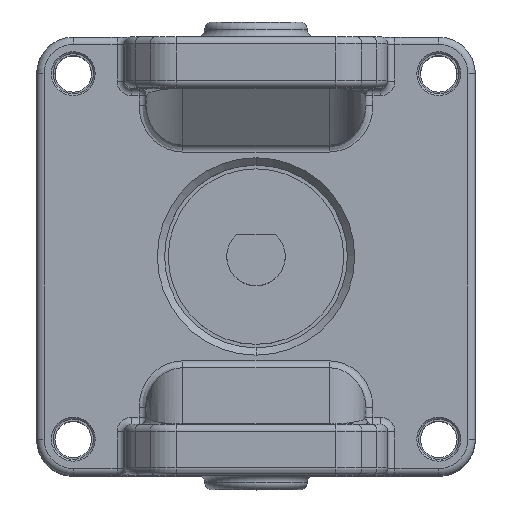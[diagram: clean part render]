
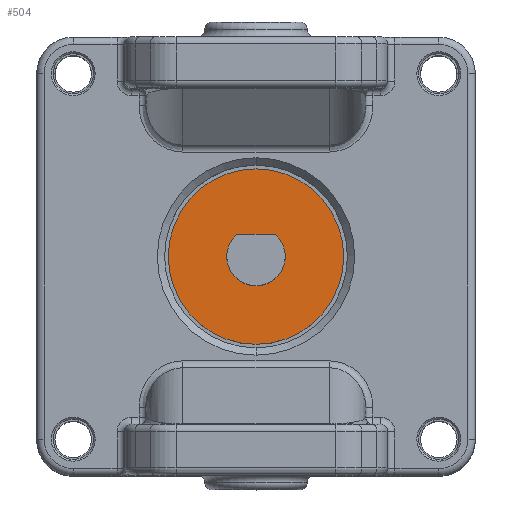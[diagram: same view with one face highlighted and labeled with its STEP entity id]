
A CAD part, top view. The second image highlights one B-rep face of the part: STEP entity #504.
In plain terms, the highlighted planar face has unit normal (0, 0, 1).
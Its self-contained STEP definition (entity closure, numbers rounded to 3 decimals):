
#31=CARTESIAN_POINT('',(0.,0.,0.));
#32=DIRECTION('',(0.,0.,-1.));
#33=DIRECTION('',(0.661,0.75,0.));
#34=AXIS2_PLACEMENT_3D('',#31,#32,#33);
#49=CARTESIAN_POINT('',(0.,0.,0.));
#50=DIRECTION('',(0.,0.,1.));
#51=DIRECTION('',(1.,0.,0.));
#52=AXIS2_PLACEMENT_3D('',#49,#50,#51);
#54=CARTESIAN_POINT('',(0.,0.,0.));
#55=DIRECTION('',(0.,0.,1.));
#56=DIRECTION('',(-1.,0.,0.));
#57=AXIS2_PLACEMENT_3D('',#54,#55,#56);
#59=DIRECTION('',(1.,0.,0.));
#60=VECTOR('',#59,5.292);
#61=CARTESIAN_POINT('',(-2.646,3.,0.));
#62=LINE('',#61,#60);
#353=CARTESIAN_POINT('',(12.,0.,0.));
#354=CARTESIAN_POINT('',(-12.,0.,0.));
#355=VERTEX_POINT('',#353);
#356=VERTEX_POINT('',#354);
#445=CARTESIAN_POINT('',(2.646,3.,0.));
#446=VERTEX_POINT('',#445);
#447=CARTESIAN_POINT('',(-2.646,3.,0.));
#448=VERTEX_POINT('',#447);
#489=CARTESIAN_POINT('',(0.,0.,0.));
#490=DIRECTION('',(0.,0.,1.));
#491=DIRECTION('',(1.,0.,0.));
#492=AXIS2_PLACEMENT_3D('',#489,#490,#491);
#493=PLANE('',#492);
#495=ORIENTED_EDGE('',*,*,#494,.F.);
#497=ORIENTED_EDGE('',*,*,#496,.F.);
#498=EDGE_LOOP('',(#495,#497));
#499=FACE_OUTER_BOUND('',#498,.F.);
#500=ORIENTED_EDGE('',*,*,#481,.F.);
#501=ORIENTED_EDGE('',*,*,#469,.F.);
#502=EDGE_LOOP('',(#500,#501));
#503=FACE_BOUND('',#502,.F.);
#504=ADVANCED_FACE('',(#499,#503),#493,.T.);
#35=CIRCLE('',#34,4.);
#53=CIRCLE('',#52,12.);
#58=CIRCLE('',#57,12.);
#469=EDGE_CURVE('',#448,#446,#62,.T.);
#481=EDGE_CURVE('',#446,#448,#35,.T.);
#494=EDGE_CURVE('',#355,#356,#53,.T.);
#496=EDGE_CURVE('',#356,#355,#58,.T.);
